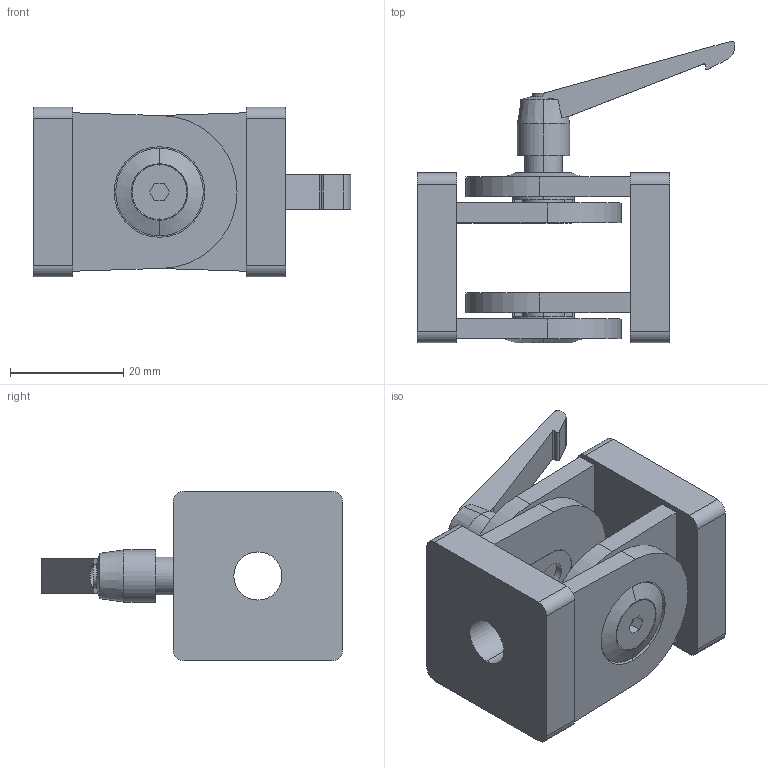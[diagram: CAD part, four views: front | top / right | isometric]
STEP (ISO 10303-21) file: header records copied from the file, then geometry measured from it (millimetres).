
FILE_DESCRIPTION (( 'STEP AP203' ), '1' );
FILE_NAME ('240KM30.STEP', '2018-07-03T14:45:23', ( '' ), ( '' ), 'SwSTEP 2.0', 'SolidWorks 2014', '' );
FILE_SCHEMA (( 'CONFIG_CONTROL_DESIGN' ));
Length unit declared in the file: millimetre
Products named in the file (1): 240KM30
Bounding box: 56.09 x 53.31 x 30 mm (x, y, z)
Volume: 23348.6 mm3; surface area: 14620.1 mm2
Topology: 7 solids, 7 shells, 191 faces, 469 edges, 305 vertices
Faces by surface type: plane 94, cylinder 80, cone 17
Entity records: 5752 total; most frequent: DIRECTION 1012, CARTESIAN_POINT 999, ORIENTED_EDGE 938, EDGE_CURVE 469, AXIS2_PLACEMENT_3D 362, VERTEX_POINT 305, LINE 288, VECTOR 288
